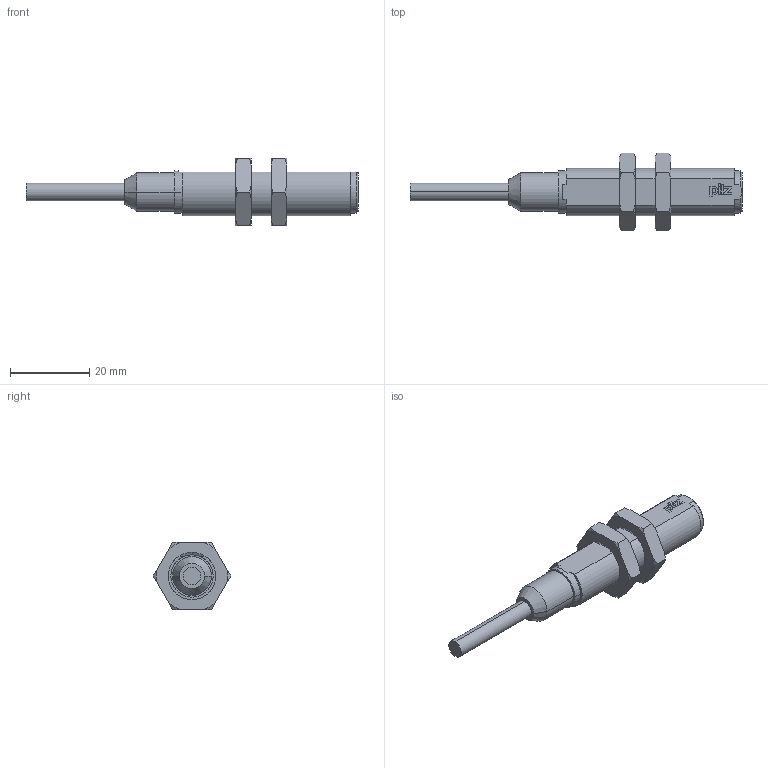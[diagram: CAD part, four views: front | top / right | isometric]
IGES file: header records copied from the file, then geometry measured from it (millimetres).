
Global section: file name: No Iges File Name specified; native system: Autodesk Inventor 2010; preprocessor: AutoDesk Inventor Iges Exporter R2010; author: pschmucki; date: 20110831.100735; units: millimetre
Bounding box: 84 x 19.63 x 17 mm (x, y, z)
Volume: 7349.2 mm3; surface area: 3377.8 mm2
Topology: 1 solids, 1 shells, 110 faces, 299 edges, 199 vertices
Faces by surface type: plane 56, cone 28, cylinder 11, revolution 11, bspline 4
